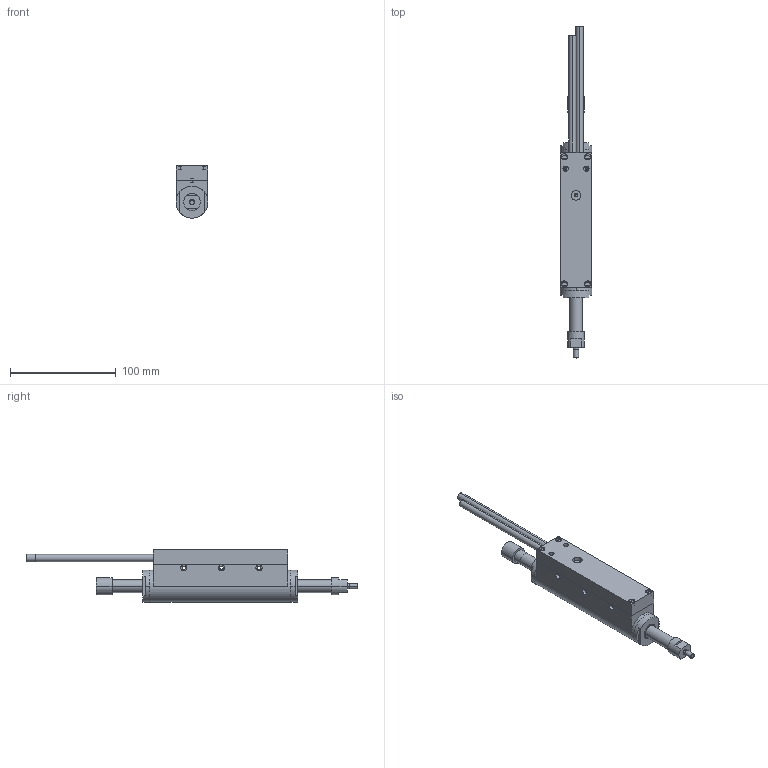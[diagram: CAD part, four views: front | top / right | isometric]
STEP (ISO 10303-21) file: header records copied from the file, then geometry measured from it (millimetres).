
FILE_DESCRIPTION(('STEP AP214'),'1');
FILE_NAME('C:/Users/Autocad/Desktop/ETT025S31SMN0060C.stp','2014-01-24T10:57:31',(' '),(' '),'Spatial InterOp 3D',' ',' ');
FILE_SCHEMA(('automotive_design'));
Length unit declared in the file: millimetre
Products named in the file (12): ETT025S31SMN0060C; tUBO PARKER; tappo 1; xsm-1214-06; Ass scatola 4-2 pressacavonuovo; Ass scatola 4-2 pressacavonuovo Geometry; Scatola 3 sotto 2; Scatola 3 pressacavo nuovo; Vite M3scheda -tappo; Vite M3 scatola; Tubo 12 2
Assembly tree (15 placements, depth 3):
  ETT025S31SMN0060C
    tUBO PARKER
    tappo 1
    tappo 1
    xsm-1214-06  x2
    Ass scatola 4-2 pressacavonuovo
      Ass scatola 4-2 pressacavonuovo Geometry
      Scatola 3 sotto 2
      Scatola 3 pressacavo nuovo
      Vite M3scheda -tappo
      Vite M3 scatola  x4
    Tubo 12 2
Bounding box: 30 x 313.17 x 49.2 mm (x, y, z)
Volume: 113651 mm3; surface area: 89362.4 mm2
Topology: 15 solids, 167 shells, 437 faces, 1303 edges, 1083 vertices
Faces by surface type: cylinder 269, plane 164, cone 4
Entity records: 17859 total; most frequent: CARTESIAN_POINT 3607, DIRECTION 2397, ORIENTED_EDGE 1664, EDGE_CURVE 1138, AXIS2_PLACEMENT_3D 970, VERTEX_POINT 968, CIRCLE 587, EDGE_LOOP 474
